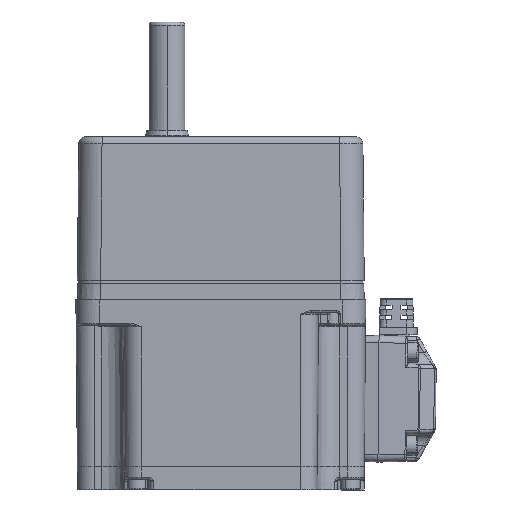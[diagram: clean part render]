
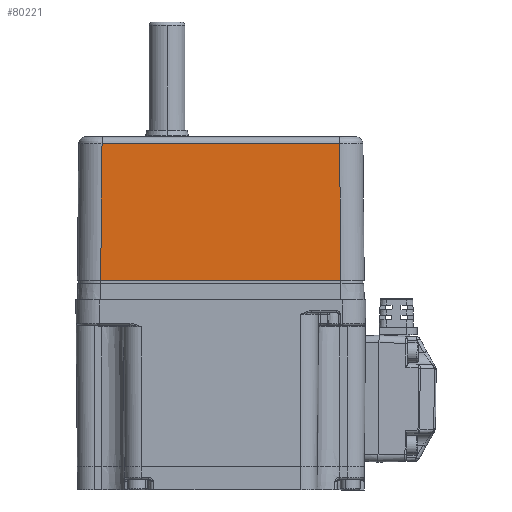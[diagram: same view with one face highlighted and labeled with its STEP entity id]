
A CAD part, left-side view. The second image highlights one B-rep face of the part: STEP entity #80221.
In plain terms, the highlighted planar face has unit normal (-1, 0, 0.01).
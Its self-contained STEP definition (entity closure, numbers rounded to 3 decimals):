
#661 = DIRECTION ( 'NONE',  ( -0.01, 0.01, -1. ) ) ;
#2050 = CARTESIAN_POINT ( 'NONE',  ( -39.62, -40., 37.52 ) ) ;
#3616 = LINE ( 'NONE', #2050, #9235 ) ;
#6404 = CARTESIAN_POINT ( 'NONE',  ( -39.6, -40., 39.496 ) ) ;
#9235 = VECTOR ( 'NONE', #19531, 1000. ) ;
#9293 = VERTEX_POINT ( 'NONE', #13133 ) ;
#9955 = ORIENTED_EDGE ( 'NONE', *, *, #79630, .T. ) ;
#10394 = EDGE_CURVE ( 'NONE', #9293, #30908, #24525, .T. ) ;
#10917 = VECTOR ( 'NONE', #58111, 1000. ) ;
#11435 = VERTEX_POINT ( 'NONE', #26084 ) ;
#13133 = CARTESIAN_POINT ( 'NONE',  ( -39.62, 33.12, 37.52 ) ) ;
#19531 = DIRECTION ( 'NONE',  ( 0., 1., 0. ) ) ;
#20385 = VECTOR ( 'NONE', #661, 1000. ) ;
#21100 = LINE ( 'NONE', #37481, #66581 ) ;
#23358 = DIRECTION ( 'NONE',  ( -1., 0., 0.01 ) ) ;
#24525 = LINE ( 'NONE', #81217, #20385 ) ;
#26084 = CARTESIAN_POINT ( 'NONE',  ( -39.62, -33.12, 37.52 ) ) ;
#30908 = VERTEX_POINT ( 'NONE', #55960 ) ;
#31673 = CARTESIAN_POINT ( 'NONE',  ( -39.995, -40., -0.5 ) ) ;
#37481 = CARTESIAN_POINT ( 'NONE',  ( -39.601, -33.101, 39.428 ) ) ;
#46152 = PLANE ( 'NONE',  #68572 ) ;
#48643 = LINE ( 'NONE', #31673, #10917 ) ;
#50425 = ORIENTED_EDGE ( 'NONE', *, *, #10394, .T. ) ;
#52396 = DIRECTION ( 'NONE',  ( 0.01, 0.01, 1. ) ) ;
#54841 = EDGE_CURVE ( 'NONE', #84530, #11435, #21100, .T. ) ;
#55282 = EDGE_LOOP ( 'NONE', ( #50425, #9955, #95885, #80230 ) ) ;
#55960 = CARTESIAN_POINT ( 'NONE',  ( -39.995, 33.495, -0.5 ) ) ;
#58084 = EDGE_CURVE ( 'NONE', #11435, #9293, #3616, .T. ) ;
#58111 = DIRECTION ( 'NONE',  ( 0., -1., 0. ) ) ;
#59336 = CARTESIAN_POINT ( 'NONE',  ( -39.995, -33.495, -0.5 ) ) ;
#66581 = VECTOR ( 'NONE', #52396, 1000. ) ;
#68572 = AXIS2_PLACEMENT_3D ( 'NONE', #6404, #23358, #102865 ) ;
#71030 = FACE_OUTER_BOUND ( 'NONE', #55282, .T. ) ;
#79630 = EDGE_CURVE ( 'NONE', #30908, #84530, #48643, .T. ) ;
#80221 = ADVANCED_FACE ( 'NONE', ( #71030 ), #46152, .T. ) ;
#80230 = ORIENTED_EDGE ( 'NONE', *, *, #58084, .T. ) ;
#81217 = CARTESIAN_POINT ( 'NONE',  ( -39.593, 33.093, 40.218 ) ) ;
#84530 = VERTEX_POINT ( 'NONE', #59336 ) ;
#95885 = ORIENTED_EDGE ( 'NONE', *, *, #54841, .T. ) ;
#102865 = DIRECTION ( 'NONE',  ( 0., 1., 0. ) ) ;
